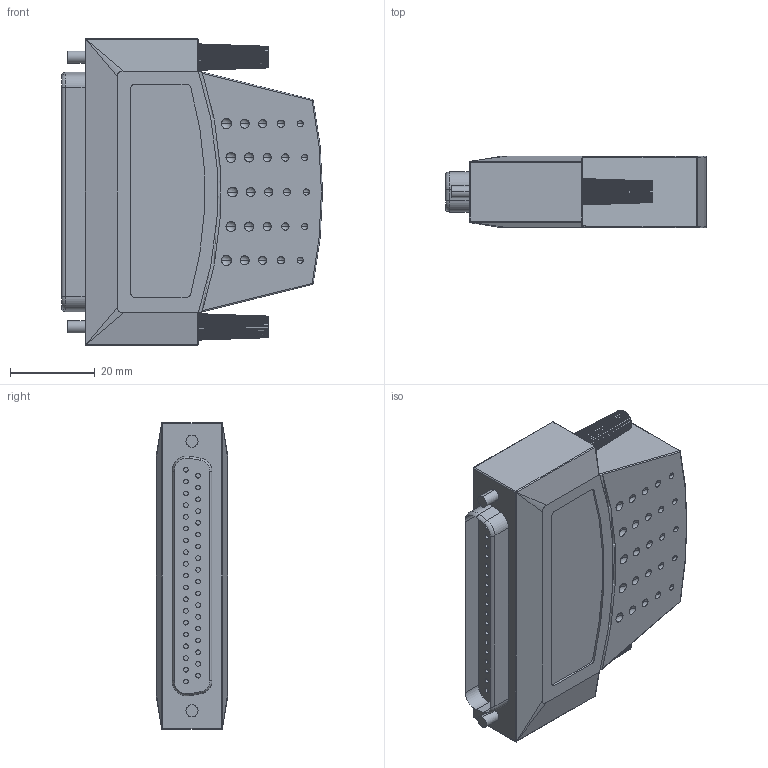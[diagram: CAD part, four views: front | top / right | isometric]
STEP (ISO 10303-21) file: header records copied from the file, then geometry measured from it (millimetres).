
FILE_DESCRIPTION((''),'2;1');
FILE_NAME('DSUB_CABLE_BACKSHELL_37_POS','2007-01-26T',('chrisj'),(''),'PRO/ENGINEER BY PARAMETRIC TECHNOLOGY CORPORATION, 2006080','PRO/ENGINEER BY PARAMETRIC TECHNOLOGY CORPORATION, 2006080','');
FILE_SCHEMA(('AUTOMOTIVE_DESIGN_CC2 { 1 2 10303 214 -1 1 5 2 }'));
Length unit declared in the file: inch
Products named in the file (1): DSUB_CABLE_BACKSHELL_37_POS
Bounding box: 61.41 x 16.76 x 72.14 mm (x, y, z)
Volume: 55685.1 mm3; surface area: 12628.7 mm2
Topology: 1 solids, 1 shells, 684 faces, 1870 edges, 1182 vertices
Faces by surface type: plane 353, cylinder 121, sphere 108, cone 92, torus 8, bspline 2
Entity records: 21864 total; most frequent: CARTESIAN_POINT 4876, ORIENTED_EDGE 3540, DIRECTION 3526, EDGE_CURVE 1770, AXIS2_PLACEMENT_3D 1300, VERTEX_POINT 1182, VECTOR 926, LINE 926
